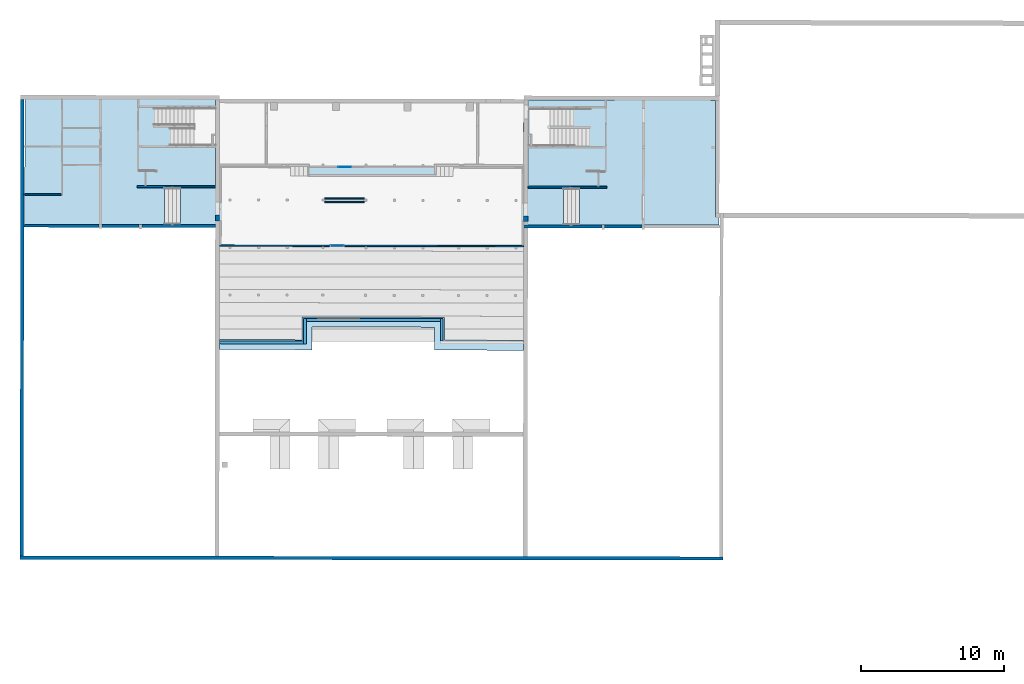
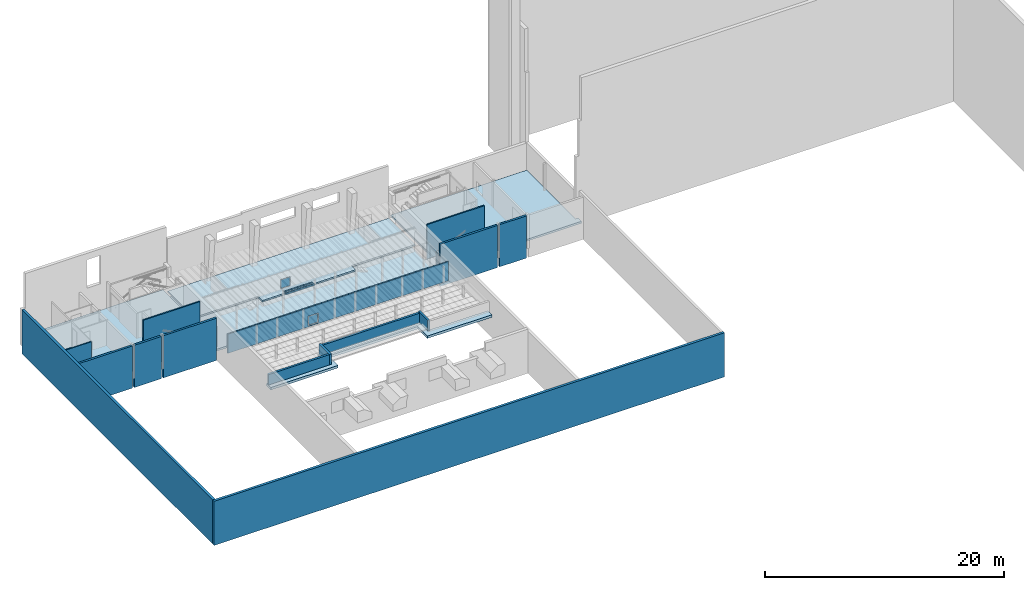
# One storey, part 3 of 24: 19 walls, 5 slabs, 2 plates, 4 openings, 2 elements without a shape of their own.
"""IFC2X3 building model written with IfcOpenShell, lengths in metres."""

import ifcopenshell
import ifcopenshell.guid

model = None  # the IFC model being written
_history = None  # IfcOwnerHistory: only IFC2X3 demands one
_inside = {}  # id of a spatial element -> (the spatial element, [elements in it])
_under = {}  # id of a project, library or spatial element -> (it, [spatial elements below it])
_declared = {}  # id of a project -> (the project, [libraries it declares])
_typed = {}  # id of a type object -> (the type object, [elements of that type])
_made_of = {}  # id of a material, layer set ... -> (it, [elements and type objects made of it])


def new_model(schema):
    """Start an empty IFC model of exactly this schema.

    Asked for "IFC4X3", IfcOpenShell would pick the latest addendum, in which some entities
    have other attributes; the version numbers below select the first issue.
    IFC2X3 requires an IfcOwnerHistory on every rooted entity: one is made here for all.
    """
    global model, _history
    if schema == "IFC4X3":
        model = ifcopenshell.file(schema_version=(4, 3, 0, 0))
    else:
        model = ifcopenshell.file(schema=schema)
    _inside.clear()
    _under.clear()
    _declared.clear()
    _typed.clear()
    _made_of.clear()
    _history = None
    if model.schema == "IFC2X3":
        org = make("IfcOrganization", Name="unknown")
        user = make(
            "IfcPersonAndOrganization",
            ThePerson=make("IfcPerson", FamilyName="unknown"),
            TheOrganization=org,
        )
        app = make(
            "IfcApplication",
            ApplicationDeveloper=org,
            Version="unknown",
            ApplicationFullName="unknown",
            ApplicationIdentifier="unknown",
        )
        _history = make(
            "IfcOwnerHistory",
            OwningUser=user,
            OwningApplication=app,
            ChangeAction="ADDED",
            CreationDate=0,
        )
    return model


def make(cls, **values):
    """One entity of the class cls with the attributes given. An attribute that is None is left unset."""
    return model.create_entity(
        cls, **{name: value for name, value in values.items() if value is not None}
    )


def entity(cls, *values):
    """Any entity or typed value of the class cls, its attributes in the order of the schema. None: left unset."""
    e = model.create_entity(cls)
    for i, value in enumerate(values):
        if value is not None:
            e[i] = value
    return e


def rooted(cls, **values):
    """An entity with a GlobalId (a new one), such as an element, a storey or a relation."""
    return make(cls, GlobalId=ifcopenshell.guid.new(), OwnerHistory=_history, **values)


def si_unit(unit_type, name, prefix=None):
    """IfcSIUnit, for example si_unit("LENGTHUNIT", "METRE", prefix="MILLI")."""
    return make("IfcSIUnit", UnitType=unit_type, Prefix=prefix, Name=name)


def converted_unit(unit_type, name, factor, base, dimensions=None, offset=None):
    """IfcConversionBasedUnit, such as the inch: factor (a typed value) times the base unit."""
    return make(
        "IfcConversionBasedUnit"
        if offset is None
        else "IfcConversionBasedUnitWithOffset",
        ConversionOffset=offset,
        Dimensions=None
        if dimensions is None
        else entity("IfcDimensionalExponents", *dimensions),
        UnitType=unit_type,
        Name=name,
        ConversionFactor=make(
            "IfcMeasureWithUnit", ValueComponent=factor, UnitComponent=base
        ),
    )


def derived_unit(unit_type, elements):
    """IfcDerivedUnit: a product of units, each with its exponent."""
    return make(
        "IfcDerivedUnit",
        Elements=[
            make("IfcDerivedUnitElement", Unit=unit, Exponent=power)
            for unit, power in elements
        ],
        UnitType=unit_type,
    )


def assignment(units):
    """IfcUnitAssignment: the units of a project."""
    return None if units is None else make("IfcUnitAssignment", Units=units)


def point(xyz):
    """IfcCartesianPoint."""
    return None if xyz is None else make("IfcCartesianPoint", Coordinates=xyz)


def direction(xyz):
    """IfcDirection."""
    return None if xyz is None else make("IfcDirection", DirectionRatios=xyz)


def frame(location, z_axis=None, x_axis=None):
    """IfcAxis2Placement3D, a coordinate frame: its origin and axes. An axis left out is left unset."""
    return make(
        "IfcAxis2Placement3D",
        Location=point(location),
        Axis=direction(z_axis),
        RefDirection=direction(x_axis),
    )


def frame_2d(location, x_axis=None):
    """IfcAxis2Placement2D, a coordinate frame in the plane: its origin and x axis."""
    return make(
        "IfcAxis2Placement2D", Location=point(location), RefDirection=direction(x_axis)
    )


def origin():
    """The frame at (0, 0, 0) with its axes left unset."""
    return frame((0.0, 0.0, 0.0))


def place(relative_to, where):
    """IfcLocalPlacement: puts the frame where relative to a parent placement (None: the world)."""
    return make(
        "IfcLocalPlacement", PlacementRelTo=relative_to, RelativePlacement=where
    )


def context(
    kind, dimensions, precision=None, world=None, true_north=None, identifier=None
):
    """IfcGeometricRepresentationContext, for example the 3D "Model" context."""
    return make(
        "IfcGeometricRepresentationContext",
        ContextIdentifier=identifier,
        ContextType=kind,
        CoordinateSpaceDimension=dimensions,
        Precision=precision,
        WorldCoordinateSystem=world,
        TrueNorth=true_north,
    )


def subcontext(parent, identifier, kind, view, scale=None):
    """IfcGeometricRepresentationSubContext, for example "Body" below "Model"."""
    return make(
        "IfcGeometricRepresentationSubContext",
        ContextIdentifier=identifier,
        ContextType=kind,
        ParentContext=parent,
        TargetScale=scale,
        TargetView=view,
    )


def project(units=None, contexts=None):
    """IfcProject with its units and contexts."""
    return rooted(
        "IfcProject",
        Name="project",
        RepresentationContexts=contexts,
        UnitsInContext=assignment(units),
    )


def spatial(cls, under=None, at=None, **own):
    """A site, building, storey or space (cls), placed at a placement, below another one or the project."""
    s = rooted(cls, ObjectPlacement=at, **own)
    if under is not None:
        _under.setdefault(under.id(), (under, []))[1].append(s)
    return s


def polyline(points):
    """IfcPolyline through the points."""
    return make("IfcPolyline", Points=[point(p) for p in points])


def profile(cls, at=None, kind="AREA", **sizes):
    """A parametric profile (cls). Its sizes go by their IFC names, for example OverallWidth=200.0."""
    return make(cls, ProfileType=kind, Position=at, **sizes)


def rectangle(**sizes):
    """IfcRectangleProfileDef."""
    return profile("IfcRectangleProfileDef", **sizes)


def outline(outer, holes=None, kind="AREA"):
    """IfcArbitraryClosedProfileDef: a profile drawn as a closed curve; with holes, ...WithVoids."""
    if holes is None:
        return make("IfcArbitraryClosedProfileDef", ProfileType=kind, OuterCurve=outer)
    return make(
        "IfcArbitraryProfileDefWithVoids",
        ProfileType=kind,
        OuterCurve=outer,
        InnerCurves=holes,
    )


def extrude(swept, where, along, depth):
    """IfcExtrudedAreaSolid: the profile swept, set in the frame where, extruded along a direction by depth."""
    return make(
        "IfcExtrudedAreaSolid",
        SweptArea=swept,
        Position=where,
        ExtrudedDirection=direction(along),
        Depth=depth,
    )


def shape(context_of_items, identifier, shape_type, items):
    """IfcShapeRepresentation: the items that make up one representation, for example the "Body"."""
    return make(
        "IfcShapeRepresentation",
        ContextOfItems=context_of_items,
        RepresentationIdentifier=identifier,
        RepresentationType=shape_type,
        Items=items,
    )


def source(mapping_origin, context_of_items, identifier, shape_type, items):
    """IfcRepresentationMap: a shape defined once, which mapped items show again and again."""
    return make(
        "IfcRepresentationMap",
        MappingOrigin=mapping_origin,
        MappedRepresentation=shape(context_of_items, identifier, shape_type, items),
    )


def transform(
    local_origin,
    x_axis=None,
    y_axis=None,
    z_axis=None,
    scale=None,
    scale2=None,
    scale3=None,
    uniform=True,
):
    """IfcCartesianTransformationOperator3D, or its non-uniform kind. x_axis, y_axis, z_axis: its Axis1, 2, 3."""
    if uniform:
        return make(
            "IfcCartesianTransformationOperator3D",
            Axis1=direction(x_axis),
            Axis2=direction(y_axis),
            LocalOrigin=point(local_origin),
            Scale=scale,
            Axis3=direction(z_axis),
        )
    return make(
        "IfcCartesianTransformationOperator3DnonUniform",
        Axis1=direction(x_axis),
        Axis2=direction(y_axis),
        LocalOrigin=point(local_origin),
        Scale=scale,
        Axis3=direction(z_axis),
        Scale2=scale2,
        Scale3=scale3,
    )


def mapped(mapping_source, mapping_target):
    """IfcMappedItem: shows the shape of a source again, moved by a transform."""
    return make(
        "IfcMappedItem", MappingSource=mapping_source, MappingTarget=mapping_target
    )


def material(Name=None, Category=None):
    """IfcMaterial."""
    return make("IfcMaterial", Name=Name, Category=Category)


def layer(
    of_material, thickness, ventilated=None, Name=None, Category=None, Priority=None
):
    """IfcMaterialLayer: one layer of a wall or slab, of a material (None: an air gap)."""
    return make(
        "IfcMaterialLayer",
        Material=of_material,
        LayerThickness=thickness,
        IsVentilated=ventilated,
        Name=Name,
        Category=Category,
        Priority=Priority,
    )


def layer_set(layers, Name=None):
    """IfcMaterialLayerSet."""
    return make("IfcMaterialLayerSet", MaterialLayers=layers, LayerSetName=Name)


def layer_usage(for_layer_set, set_direction, sense, offset, extent=None):
    """IfcMaterialLayerSetUsage: how a layer set lies in its element."""
    return make(
        "IfcMaterialLayerSetUsage",
        ForLayerSet=for_layer_set,
        LayerSetDirection=set_direction,
        DirectionSense=sense,
        OffsetFromReferenceLine=offset,
        ReferenceExtent=extent,
    )


def made_of(thing, what):
    """Note that an element or type object is made of a material, layer set ...; save() writes the relation."""
    if what is not None:
        _made_of.setdefault(what.id(), (what, []))[1].append(thing)
    return thing


def type_object(cls, material=None, **own):
    """A type object (cls), such as IfcWallType, which elements share."""
    return made_of(rooted(cls, **own), material)


def type_shapes(of_type, sources):
    """Give a type object the sources (RepresentationMaps) that its elements show as mapped items."""
    of_type.RepresentationMaps = sources


def element(
    cls,
    number,
    at=None,
    inside=None,
    cuts=None,
    type_object=None,
    material=None,
    context=None,
    identifier="Body",
    shape_type=None,
    held_by="IfcProductDefinitionShape",
    body=None,
    shapes=None,
    **own,
):
    """One element of the class cls, such as IfcWall. Its Tag is "e" and its number.

    at: its placement. inside: the storey or other place that contains it. cuts: it is an
    opening in that element (IfcRelVoidsElement). A single representation is given by context,
    identifier, shape_type and body (its items); several are given by shapes. held_by: the class
    of the entity that holds the representations. save() writes the other relations.
    """
    e = rooted(cls, Tag="e%d" % number, ObjectPlacement=at, **own)
    if body is not None:
        shapes = [shape(context, identifier, shape_type, body)]
    if shapes is not None:
        e.Representation = make(held_by, Representations=shapes)
    if inside is not None:
        _inside.setdefault(inside.id(), (inside, []))[1].append(e)
    if cuts is not None:
        rooted(
            "IfcRelVoidsElement", RelatingBuildingElement=cuts, RelatedOpeningElement=e
        )
    if type_object is not None:
        _typed.setdefault(type_object.id(), (type_object, []))[1].append(e)
    return made_of(e, material)


def aggregate(whole, parts):
    """IfcRelAggregates: a whole, such as a stair, and the parts it consists of."""
    return rooted("IfcRelAggregates", RelatingObject=whole, RelatedObjects=parts)


def save(model, path):
    """Write the relations noted so far, then the file.

    IfcRelAggregates (storeys below a building ...), IfcRelContainedInSpatialStructure (elements
    in a storey), IfcRelDefinesByType, IfcRelAssociatesMaterial and IfcRelDeclares: one each for
    every whole, place, type object, material and project.
    """
    for whole, parts in _under.values():
        aggregate(whole, parts)
    for where, things in _inside.values():
        rooted(
            "IfcRelContainedInSpatialStructure",
            RelatedElements=things,
            RelatingStructure=where,
        )
    for kind, things in _typed.values():
        rooted("IfcRelDefinesByType", RelatedObjects=things, RelatingType=kind)
    for what, things in _made_of.values():
        rooted("IfcRelAssociatesMaterial", RelatedObjects=things, RelatingMaterial=what)
    for by, libraries in _declared.values():
        rooted("IfcRelDeclares", RelatingContext=by, RelatedDefinitions=libraries)
    model.write(path)


model = new_model("IFC2X3")

# Units and contexts
model_context = context("Model", 3, precision=1e-05, world=origin(), true_north=direction((6.123233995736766e-17, 1.0)))
body_context = subcontext(model_context, "Body", "Model", "MODEL_VIEW")
ifc_project = project(units=[si_unit("LENGTHUNIT", "METRE"), si_unit("AREAUNIT", "SQUARE_METRE"), converted_unit("PLANEANGLEUNIT", "DEGREE", entity("IfcPlaneAngleMeasure", 0.017453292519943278), si_unit("PLANEANGLEUNIT", "RADIAN"), dimensions=[0, 0, 0, 0, 0, 0, 0]), derived_unit("THERMALTRANSMITTANCEUNIT", [(si_unit("MASSUNIT", "GRAM", prefix="KILO"), 1), (si_unit("THERMODYNAMICTEMPERATUREUNIT", "KELVIN"), -1), (si_unit("TIMEUNIT", "SECOND"), -3)])], contexts=[model_context])

# Site, building, storey
site_placement = place(None, frame((1253.6752467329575, 2072.143113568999, 91.49999999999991), z_axis=(0.0, 0.0, 1.0), x_axis=(0.7237211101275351, 0.6900925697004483, 0.0)))
site = spatial("IfcSite", under=ifc_project, at=site_placement, Name="Surface", CompositionType="ELEMENT")
building_placement = place(site_placement, origin())
building = spatial("IfcBuilding", under=site, at=building_placement, CompositionType="ELEMENT")
storey_placement = place(building_placement, frame((0.0, 0.0, -7.049999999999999)))
storey = spatial("IfcBuildingStorey", under=building, at=storey_placement, Name="R-1", CompositionType="ELEMENT", Elevation=-7.049999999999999)

# Slabs
ifc_material_1 = material(Name="OMD_Béton blanc")
ifc_layer_1 = layer(ifc_material_1, 0.2)
ifc_layer_set_1 = layer_set([ifc_layer_1], Name="Sol:Dalle 20")
ifc_layer_usage_1 = layer_usage(ifc_layer_set_1, "AXIS3", "POSITIVE", 0.0)
slab_type_1 = type_object("IfcSlabType", Name="Sol:Dalle 20", PredefinedType="FLOOR", material=ifc_layer_set_1)
slab_1_placement = place(storey_placement, frame((160.15788117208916, -12.57132004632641, 0.5299999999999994)))
element("IfcSlab", 1, at=slab_1_placement, inside=storey, type_object=slab_type_1, material=ifc_layer_usage_1, Name="Sol:Dalle 20", ObjectType="Sol:Dalle 20", PredefinedType="FLOOR", context=body_context, shape_type="SweptSolid", body=[
    extrude(outline(polyline([(4.864375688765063, 10.77123273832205), (5.3264205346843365, 10.287866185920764), (9.193387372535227, 6.2424527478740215), (11.767482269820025, 8.70300214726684), (13.553675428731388, 6.834382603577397), (20.623349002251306, 13.592206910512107), (14.50814415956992, 19.989606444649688), (4.864375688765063, 10.77123273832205)])), frame((20.623349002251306, 19.989606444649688, 0.2), z_axis=(0.0, 0.0, -1.0), x_axis=(-1.0, 0.0, 0.0)), (0.0, 0.0, 1.0), 0.20000000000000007),
])
slab_2_placement = place(storey_placement, frame((160.15788117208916, -12.57132004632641, 0.5299999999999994)))
element("IfcSlab", 2, at=slab_2_placement, inside=storey, type_object=slab_type_1, material=ifc_layer_usage_1, Name="Sol:Dalle 20:2", ObjectType="Sol:Dalle 20", PredefinedType="FLOOR", context=body_context, shape_type="SweptSolid", body=[
    extrude(outline(polyline([(-14.508144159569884, -19.989606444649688), (-7.438476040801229, -13.231787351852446), (-9.224669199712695, -11.363167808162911), (-6.6439521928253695, -8.896288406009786), (-10.901709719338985, -4.44205069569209), (-20.375202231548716, -13.49765945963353), (-14.719810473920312, -19.414027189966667), (-14.896703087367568, -19.583116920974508), (-14.508144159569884, -19.989606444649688)])), frame((20.623349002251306, 19.989606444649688, 0.2), z_axis=(0.0, 0.0, -1.0), x_axis=(-1.0, 0.0, 0.0)), (0.0, 0.0, 1.0), 0.20000000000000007),
])
ifc_layer_usage_2 = layer_usage(ifc_layer_set_1, "AXIS3", "POSITIVE", 0.0)
slab_3_placement = place(storey_placement, origin())
element("IfcSlab", 3, at=slab_3_placement, inside=storey, type_object=slab_type_1, material=ifc_layer_usage_2, Name="Sol:Dalle 20", ObjectType="Sol:Dalle 20", PredefinedType="FLOOR", context=body_context, shape_type="SweptSolid", body=[
    extrude(outline(polyline([(-5.10434361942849, 10.663840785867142), (-5.104343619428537, -10.66790562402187), (0.8406619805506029, -10.667905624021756), (0.8444091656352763, -13.397969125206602), (3.4706967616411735, -13.39796912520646), (3.4339095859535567, 13.403836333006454), (0.807626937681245, 13.400231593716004), (0.8113828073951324, 10.663840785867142), (-5.10434361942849, 10.663840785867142)])), frame((180.08123230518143, 6.6846933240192, 0.0), z_axis=(0.0, 0.0, 1.0), x_axis=(-0.6919753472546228, -0.7219211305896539, 0.0)), (0.0, 0.0, -1.0), 0.2),
])
ifc_layer_2 = layer(ifc_material_1, 0.14999999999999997)
ifc_layer_set_2 = layer_set([ifc_layer_2], Name="Sol:estrade")
ifc_layer_usage_3 = layer_usage(ifc_layer_set_2, "AXIS3", "POSITIVE", 0.0)
slab_type_2 = type_object("IfcSlabType", Name="Sol:estrade", PredefinedType="FLOOR", material=ifc_layer_set_2)
slab_4_placement = place(storey_placement, origin())
element("IfcSlab", 4, at=slab_4_placement, inside=storey, type_object=slab_type_2, material=ifc_layer_usage_3, Name="Sol:estrade", ObjectType="Sol:estrade", PredefinedType="FLOOR", context=body_context, shape_type="SweptSolid", body=[
    extrude(outline(polyline([(-10.659999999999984, -3.497499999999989), (10.659999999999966, -3.49749999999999), (10.659999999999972, 0.9324999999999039), (4.500000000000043, 0.9324999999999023), (4.49999999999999, 1.632499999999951), (-4.500000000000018, 1.6325000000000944), (-4.500000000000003, 0.932500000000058), (-10.659999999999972, 0.9325000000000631), (-10.659999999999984, -3.497499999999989)])), frame((181.201006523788, 7.857428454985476, 0.6499999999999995), z_axis=(0.0, 0.0, -1.0), x_axis=(0.7228702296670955, -0.6909838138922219, 0.0)), (0.0, 0.0, 1.0), 0.14999999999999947),
])
ifc_material_2 = material(Name="Béton, coulé sur place")
ifc_layer_3 = layer(ifc_material_2, 0.24999999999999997)
ifc_layer_set_3 = layer_set([ifc_layer_3], Name="Sol:Dalle 25")
ifc_layer_usage_4 = layer_usage(ifc_layer_set_3, "AXIS3", "POSITIVE", 0.0)
slab_type_3 = type_object("IfcSlabType", Name="Sol:Dalle 25", PredefinedType="FLOOR", material=ifc_layer_set_3)
slab_5_placement = place(storey_placement, origin())
element("IfcSlab", 5, at=slab_5_placement, inside=storey, type_object=slab_type_3, material=ifc_layer_usage_4, Name="Sol:Dalle 25", ObjectType="Sol:Dalle 25", PredefinedType="FLOOR", context=body_context, shape_type="SweptSolid", body=[
    extrude(outline(polyline([(-10.728736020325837, -0.18138120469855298), (-10.727775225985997, -0.8813812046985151), (-4.246317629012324, -0.8813812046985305), (-4.247283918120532, 0.7078856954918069), (4.335513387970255, 0.7176395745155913), (4.338172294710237, -0.8813812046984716), (10.550070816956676, -0.8813812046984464), (10.54945050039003, -0.1813812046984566), (5.037009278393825, -0.1813812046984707), (5.034349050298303, 1.4184342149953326), (-4.947709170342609, 1.407090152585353), (-4.946743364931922, -0.18138120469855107), (-10.728736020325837, -0.18138120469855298)])), frame((172.3294906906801, -1.524650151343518, 1.3077777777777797), z_axis=(0.0, 0.0, 1.0), x_axis=(0.7219211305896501, -0.6919753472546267, 0.0)), (0.0, 0.0, -1.0), 0.24999999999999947),
])

# Curtain wall, plate
curtain_wall_type = type_object("IfcCurtainWallType", Name="Mur-rideau:Trappe", PredefinedType="NOTDEFINED")
curtain_wall_1_placement = place(storey_placement, frame((0.0, 0.0, 7.049999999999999)))
curtain_wall_1 = element("IfcCurtainWall", 6, at=curtain_wall_1_placement, inside=storey, type_object=curtain_wall_type, Name="Mur-rideau:Trappe", ObjectType="Mur-rideau:Trappe")
ifc_material_3 = material(Name="Trap- Dallmer- Polypropylene")
ifc_material_4 = material(Name="Verre")
ifc_layer_4 = layer(ifc_material_4, 0.01)
ifc_layer_set_4 = layer_set([ifc_layer_4], Name="Panneau système:plein")
plate_type = type_object("IfcPlateType", Name="Panneau système:plein", PredefinedType="CURTAIN_PANEL", material=ifc_layer_set_4)
shared_shape = source(origin(), body_context, "Body", "SweptSolid", [
    extrude(rectangle(XDim=0.01, YDim=0.8999999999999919, at=frame_2d((0.0, -5.051514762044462e-15), x_axis=(1.0, 0.0))), frame((0.0, 0.0, 0.0), z_axis=(0.0, 0.0, 1.0), x_axis=(0.0, 1.0, 0.0)), (0.0, 0.0, 1.0), 0.9000000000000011),
])
type_shapes(plate_type, [shared_shape])
plate_1_placement = place(curtain_wall_1_placement, frame((179.14123583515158, 8.458781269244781, -6.299999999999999), z_axis=(0.0, 0.0, 1.0), x_axis=(0.7219211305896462, -0.691975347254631, 0.0)))
plate_1 = element("IfcPlate", 7, at=plate_1_placement, type_object=plate_type, material=ifc_material_3, Name="Panneau système:plein", ObjectType="Panneau système:plein", context=body_context, shape_type="MappedRepresentation", body=[
    mapped(shared_shape, transform((0.0, 0.0, 0.0), scale=1.0)),
])
aggregate(curtain_wall_1, [plate_1])

curtain_wall_2_placement = place(storey_placement, frame((0.0, 0.0, 7.049999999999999)))
curtain_wall_2 = element("IfcCurtainWall", 8, at=curtain_wall_2_placement, inside=storey, type_object=curtain_wall_type, Name="Mur-rideau:Trappe", ObjectType="Mur-rideau:Trappe")
plate_2_placement = place(curtain_wall_2_placement, frame((174.95669021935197, 4.822018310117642, -6.499999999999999), z_axis=(0.0, 0.0, 1.0), x_axis=(0.7228702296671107, -0.690983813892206, 0.0)))
plate_2 = element("IfcPlate", 9, at=plate_2_placement, type_object=plate_type, material=ifc_material_3, Name="Panneau système:plein", ObjectType="Panneau système:plein", context=body_context, shape_type="MappedRepresentation", body=[
    mapped(shared_shape, transform((0.0, 0.0, 0.0), scale=1.0)),
])
aggregate(curtain_wall_2, [plate_2])

# Wall
ifc_layer_5 = layer(ifc_material_1, 0.12999999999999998)
ifc_layer_set_5 = layer_set([ifc_layer_5], Name="Mur de base:MUR 13")
ifc_layer_usage_5 = layer_usage(ifc_layer_set_5, "AXIS2", "NEGATIVE", 0.06499999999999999)
wall_type_1 = type_object("IfcWallType", Name="Mur de base:MUR 13", PredefinedType="STANDARD", material=ifc_layer_set_5)
wall_1_placement = place(storey_placement, frame((191.4314954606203, -5.217673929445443, 0.0), z_axis=(0.0, 0.0, 1.0), x_axis=(-0.7228702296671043, 0.6909838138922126, 0.0)))
element("IfcWallStandardCase", 10, at=wall_1_placement, inside=storey, type_object=wall_type_1, material=ifc_layer_usage_5, Name="Mur de base:MUR 13", ObjectType="Mur de base:MUR 13", context=body_context, shape_type="SweptSolid", body=[
    extrude(outline(polyline([(-0.04164125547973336, -3.4788160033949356), (0.08835875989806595, -3.4788160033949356), (0.08568080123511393, 2.0268982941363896), (-0.0443191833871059, 2.026835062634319), (-0.04407117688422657, 1.5169493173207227), (-0.04400794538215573, 1.3869493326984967), (-0.04164125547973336, -3.4788160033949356)])), frame((2.0268563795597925, -0.02166666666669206, 0.0), z_axis=(0.0, 0.0, 1.0), x_axis=(0.0004863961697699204, 0.999999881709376, 0.0)), (0.0, 0.0, 1.0), 3.499999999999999),
])

# Wall, opening
ifc_layer_usage_6 = layer_usage(ifc_layer_set_5, "AXIS2", "POSITIVE", -0.06499999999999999)
wall_2_placement = place(storey_placement, frame((167.6759953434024, 17.489951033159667, 0.0), z_axis=(0.0, 0.0, 1.0), x_axis=(0.7228702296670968, -0.6909838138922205, 0.0)))
wall_2 = element("IfcWallStandardCase", 11, at=wall_2_placement, inside=storey, type_object=wall_type_1, material=ifc_layer_usage_6, Name="Mur de base:MUR 13", ObjectType="Mur de base:MUR 13", context=body_context, shape_type="SweptSolid", body=[
    extrude(rectangle(XDim=5.473681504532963, YDim=0.13000000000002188, at=frame_2d((2.7368407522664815, -1.2004286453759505e-15), x_axis=(-1.0, 0.0))), origin(), (0.0, 0.0, 1.0), 3.2999999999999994),
])
opening_1_placement = place(wall_2_placement, frame((-109.12271219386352, -128.50436368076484, 0.7299999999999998)))
element("IfcOpeningElement", 12, at=opening_1_placement, cuts=wall_2, Name="Mur de base:MUR 13", ObjectType="Opening", context=body_context, shape_type="SweptSolid", body=[
    extrude(rectangle(XDim=2.0850000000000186, YDim=0.13000000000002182, at=frame_2d((1.8492152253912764e-14, 5.551115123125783e-16), x_axis=(0.0, 1.0))), frame((109.69759583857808, 128.5677893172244, 1.04250000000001), z_axis=(0.002745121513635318, 0.9999962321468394, 0.0), x_axis=(0.9999962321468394, -0.002745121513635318, 0.0)), (0.0, 0.0, 1.0), 0.9349999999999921),
])

# Wall
ifc_layer_6 = layer(ifc_material_1, 0.1)
ifc_layer_set_6 = layer_set([ifc_layer_6], Name="Mur de base:MUR 10")
ifc_layer_usage_7 = layer_usage(ifc_layer_set_6, "AXIS2", "NEGATIVE", 0.05)
wall_type_2 = type_object("IfcWallType", Name="Mur de base:MUR 10", PredefinedType="STANDARD", material=ifc_layer_set_6)
wall_3_placement = place(storey_placement, frame((163.4522689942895, 20.766509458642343, -0.08000000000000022), z_axis=(0.0, 0.0, 1.0), x_axis=(-0.7228702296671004, 0.6909838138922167, 0.0)))
element("IfcWallStandardCase", 13, at=wall_3_placement, inside=storey, type_object=wall_type_2, material=ifc_layer_usage_7, Name="Mur de base:MUR 10", ObjectType="Mur de base:MUR 10", context=body_context, shape_type="SweptSolid", body=[
    extrude(outline(polyline([(-0.0496927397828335, -1.301306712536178), (0.05030726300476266, -1.301306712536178), (0.0496927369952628, 1.3013185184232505), (-0.05030726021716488, 1.3012949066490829), (-0.0496927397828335, -1.301306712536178)])), frame((1.3013067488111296, 0.0, 0.0), z_axis=(0.0, 0.0, 1.0), x_axis=(0.00023611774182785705, 0.9999999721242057, 0.0)), (0.0, 0.0, 1.0), 3.3799999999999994),
])

# Wall, opening
ifc_layer_7 = layer(ifc_material_1, 0.29999999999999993)
ifc_layer_set_7 = layer_set([ifc_layer_7], Name="Mur de base:MUR 30")
ifc_layer_usage_8 = layer_usage(ifc_layer_set_7, "AXIS2", "NEGATIVE", 0.14999999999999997)
wall_type_3 = type_object("IfcWallType", Name="Mur de base:MUR 30", PredefinedType="STANDARD", material=ifc_layer_set_7)
wall_4_placement = place(storey_placement, frame((170.37994917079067, 12.180023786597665, 0.0), z_axis=(0.0, 0.0, 1.0), x_axis=(-0.6909838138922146, -0.7228702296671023, 0.0)))
wall_4 = element("IfcWallStandardCase", 14, at=wall_4_placement, inside=storey, type_object=wall_type_3, material=ifc_layer_usage_8, Name="Mur de base:MUR 30", ObjectType="Mur de base:MUR 30", context=body_context, shape_type="SweptSolid", body=[
    extrude(rectangle(XDim=0.4251674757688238, YDim=0.2999999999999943, at=frame_2d((0.21258373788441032, -1.2073675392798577e-15), x_axis=(-1.0, 0.0))), origin(), (0.0, 0.0, 1.0), 2.08500000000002),
])
opening_2_placement = place(wall_4_placement, frame((126.53436368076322, -114.74639369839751, 0.0)))
element("IfcOpeningElement", 15, at=opening_2_placement, cuts=wall_4, Name="Mur de base:MUR 30", ObjectType="Opening", context=body_context, shape_type="SweptSolid", body=[
    extrude(rectangle(XDim=2.134, YDim=0.9149999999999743, at=frame_2d((0.0, 2.0594637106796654e-14), x_axis=(1.0, 0.0))), frame((-126.99186368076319, 113.37239369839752, 1.067), z_axis=(0.0, 1.0, 0.0), x_axis=(0.0, 0.0, -1.0)), (0.0, 0.0, 1.0), 3.048),
])

ifc_layer_usage_9 = layer_usage(ifc_layer_set_7, "AXIS2", "POSITIVE", -0.14999999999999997)
wall_5_placement = place(storey_placement, frame((185.93450040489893, -2.7819289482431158, 0.0), z_axis=(0.0, 0.0, 1.0), x_axis=(-0.6913353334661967, -0.7225340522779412, 0.0)))
wall_5 = element("IfcWallStandardCase", 16, at=wall_5_placement, inside=storey, type_object=wall_type_3, material=ifc_layer_usage_9, Name="Mur de base:MUR 30", ObjectType="Mur de base:MUR 30", context=body_context, shape_type="SweptSolid", body=[
    extrude(rectangle(XDim=0.3749999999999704, YDim=0.3000000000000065, at=frame_2d((0.1874999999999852, 1.942890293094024e-16), x_axis=(-1.0, 0.0))), origin(), (0.0, 0.0, 1.0), 2.08500000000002),
])
opening_3_placement = place(wall_5_placement, frame((126.53305144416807, -136.26725381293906, 0.0)))
element("IfcOpeningElement", 17, at=opening_3_placement, cuts=wall_5, Name="Mur de base:MUR 30", ObjectType="Opening", context=body_context, shape_type="SweptSolid", body=[
    extrude(rectangle(XDim=2.134, YDim=0.9150000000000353, at=frame_2d((0.0, -3.9690473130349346e-14), x_axis=(1.0, 0.0))), frame((-126.99055144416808, 134.89325381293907, 1.067), z_axis=(0.0, 1.0, 0.0), x_axis=(0.0, 0.0, -1.0)), (0.0, 0.0, 1.0), 3.0480000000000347),
])

# Walls
ifc_layer_8 = layer(ifc_material_1, 0.24)
ifc_layer_set_8 = layer_set([ifc_layer_8], Name="Mur de base:MUR 24")
ifc_layer_usage_10 = layer_usage(ifc_layer_set_8, "AXIS2", "NEGATIVE", 0.12)
wall_type_4 = type_object("IfcWallType", Name="Mur de base:MUR 24", PredefinedType="STANDARD", material=ifc_layer_set_8)
wall_6_placement = place(storey_placement, frame((179.3855811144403, -29.643179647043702, -1.0), z_axis=(0.0, 0.0, 1.0), x_axis=(-0.7228702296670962, 0.6909838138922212, 0.0)))
element("IfcWallStandardCase", 18, at=wall_6_placement, inside=storey, type_object=wall_type_4, material=ifc_layer_usage_10, Name="Mur de base:MUR 24", ObjectType="Mur de base:MUR 24", context=body_context, shape_type="SweptSolid", body=[
    extrude(outline(polyline([(-0.04219397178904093, -24.589551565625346), (0.19780603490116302, -24.589551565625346), (0.18618936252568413, 24.6090896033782), (-0.053810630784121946, 24.609032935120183), (-0.05375396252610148, 24.36903294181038), (-0.05057859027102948, 10.920775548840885), (-0.05050775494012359, 10.620775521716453), (-0.04548534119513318, -10.650025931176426), (-0.045414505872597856, -10.95002592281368), (-0.042250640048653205, -24.349551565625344), (-0.04219397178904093, -24.589551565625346)])), frame((24.60904495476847, -0.07200000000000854, 0.0), z_axis=(0.0, 0.0, 1.0), x_axis=(0.00023611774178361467, 0.9999999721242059, 0.0)), (0.0, 0.0, 1.0), 4.499999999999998),
])
ifc_layer_usage_11 = layer_usage(ifc_layer_set_8, "AXIS2", "NEGATIVE", 0.12)
wall_7_placement = place(storey_placement, frame((143.99103095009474, 4.356052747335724, -1.0), z_axis=(0.0, 0.0, 1.0), x_axis=(0.6911544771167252, 0.7227070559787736, 0.0)))
element("IfcWallStandardCase", 19, at=wall_7_placement, inside=storey, type_object=wall_type_4, material=ifc_layer_usage_11, Name="Mur de base:MUR 24", ObjectType="Mur de base:MUR 24", context=body_context, shape_type="SweptSolid", body=[
    extrude(outline(polyline([(-0.0645399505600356, -13.603912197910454), (0.17546020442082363, -13.603912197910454), (0.13913815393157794, 18.35719740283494), (-0.10086162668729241, 18.356867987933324), (-0.07471203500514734, -4.653120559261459), (-0.07448474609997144, -4.853120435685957), (-0.0645399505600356, -13.603912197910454)])), frame((18.35702742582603, -0.03999999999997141, 0.0), z_axis=(0.0, 0.0, 1.0), x_axis=(0.0011364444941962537, 0.9999993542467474, 0.0)), (0.0, 0.0, 1.0), 4.499999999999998),
])
ifc_material_5 = material(Name="Béton - Béton coulé sur place")
ifc_layer_9 = layer(ifc_material_5, 0.2)
ifc_layer_set_9 = layer_set([ifc_layer_9], Name="Mur de base:MUR 20")
ifc_layer_usage_12 = layer_usage(ifc_layer_set_9, "AXIS2", "NEGATIVE", 0.1)
wall_type_5 = type_object("IfcWallType", Name="Mur de base:MUR 20", PredefinedType="STANDARD", material=ifc_layer_set_9)
wall_8_placement = place(storey_placement, frame((191.31677943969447, -8.912297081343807, -1.0), z_axis=(0.0, 0.0, 1.0), x_axis=(-0.7228702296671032, 0.6909838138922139, 0.0)))
element("IfcWallStandardCase", 20, at=wall_8_placement, inside=storey, type_object=wall_type_5, material=ifc_layer_usage_12, Name="Mur de base:MUR 20", ObjectType="Mur de base:MUR 20", context=body_context, shape_type="SweptSolid", body=[
    extrude(rectangle(XDim=2.6000000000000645, YDim=0.20000000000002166, at=frame_2d((1.300000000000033, -1.519617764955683e-15), x_axis=(-1.0, 0.0))), origin(), (0.0, 0.0, 1.0), 4.299999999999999),
])
ifc_layer_usage_13 = layer_usage(ifc_layer_set_9, "AXIS2", "NEGATIVE", 0.1)
wall_9_placement = place(storey_placement, frame((189.29274279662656, -6.9775424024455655, -1.0), z_axis=(0.0, 0.0, 1.0), x_axis=(-0.7228702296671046, 0.6909838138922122, 0.0)))
element("IfcWallStandardCase", 21, at=wall_9_placement, inside=storey, type_object=wall_type_5, material=ifc_layer_usage_13, Name="Mur de base:MUR 20", ObjectType="Mur de base:MUR 20", context=body_context, shape_type="SweptSolid", body=[
    extrude(rectangle(XDim=5.527020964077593, YDim=0.20000000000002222, at=frame_2d((2.7635104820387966, -3.0531133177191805e-16), x_axis=(-1.0, 0.0))), origin(), (0.0, 0.0, 1.0), 4.299999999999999),
])
ifc_layer_usage_14 = layer_usage(ifc_layer_set_9, "AXIS2", "NEGATIVE", 0.1)
wall_10_placement = place(storey_placement, frame((166.0163214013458, 15.272136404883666, -1.0), z_axis=(0.0, 0.0, 1.0), x_axis=(0.7228702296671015, -0.6909838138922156, 0.0)))
element("IfcWallStandardCase", 22, at=wall_10_placement, inside=storey, type_object=wall_type_5, material=ifc_layer_usage_14, Name="Mur de base:MUR 20", ObjectType="Mur de base:MUR 20", context=body_context, shape_type="SweptSolid", body=[
    extrude(rectangle(XDim=5.140936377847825, YDim=0.20000000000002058, at=frame_2d((2.5704681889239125, -9.992007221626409e-16), x_axis=(-1.0, 0.0))), origin(), (0.0, 0.0, 1.0), 4.299999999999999),
])
ifc_layer_usage_15 = layer_usage(ifc_layer_set_9, "AXIS2", "NEGATIVE", 0.1)
wall_11_placement = place(storey_placement, frame((163.99228475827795, 17.206891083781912, -1.0), z_axis=(0.0, 0.0, 1.0), x_axis=(0.7228702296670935, -0.690983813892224, 0.0)))
element("IfcWallStandardCase", 23, at=wall_11_placement, inside=storey, type_object=wall_type_5, material=ifc_layer_usage_15, Name="Mur de base:MUR 20", ObjectType="Mur de base:MUR 20", context=body_context, shape_type="SweptSolid", body=[
    extrude(rectangle(XDim=2.600000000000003, YDim=0.20000000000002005, at=frame_2d((1.3000000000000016, -4.579669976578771e-16), x_axis=(-1.0, 0.0))), origin(), (0.0, 0.0, 1.0), 4.299999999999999),
])
ifc_layer_usage_16 = layer_usage(ifc_layer_set_9, "AXIS2", "NEGATIVE", 0.1)
wall_12_placement = place(storey_placement, frame((160.05036021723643, 20.97493400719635, -1.0), z_axis=(0.0, 0.0, 1.0), x_axis=(0.7228702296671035, -0.6909838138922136, 0.0)))
element("IfcWallStandardCase", 24, at=wall_12_placement, inside=storey, type_object=wall_type_5, material=ifc_layer_usage_16, Name="Mur de base:MUR 20", ObjectType="Mur de base:MUR 20", context=body_context, shape_type="SweptSolid", body=[
    extrude(outline(polyline([(-0.10000000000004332, -2.6265664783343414), (0.09999999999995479, -2.626566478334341), (0.09999999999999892, 2.6265428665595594), (-0.09999999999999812, 2.626590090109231), (-0.10000000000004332, -2.6265664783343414)])), frame((2.62659009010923, 0.0, 0.0), z_axis=(0.0, 0.0, 1.0), x_axis=(0.0, 1.0, 0.0)), (0.0, 0.0, 1.0), 4.299999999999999),
])
ifc_layer_usage_17 = layer_usage(ifc_layer_set_9, "AXIS2", "NEGATIVE", 0.1)
wall_13_placement = place(storey_placement, frame((164.32481182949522, 5.6283818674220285, 1.3077777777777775), z_axis=(0.0, 0.0, 1.0), x_axis=(0.7228702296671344, -0.6909838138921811, 0.0)))
element("IfcWallStandardCase", 25, at=wall_13_placement, inside=storey, type_object=wall_type_5, material=ifc_layer_usage_17, Name="Mur de base:MUR 20", ObjectType="Mur de base:MUR 20", context=body_context, shape_type="SweptSolid", body=[
    extrude(outline(polyline([(-0.09775153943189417, -2.940919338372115), (0.10224851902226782, -2.940919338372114), (0.09775148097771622, 2.9409957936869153), (-0.1022484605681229, 2.9408428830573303), (-0.09775153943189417, -2.940919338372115)])), frame((2.9409201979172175, 0.0, 0.0), z_axis=(0.0, 0.0, 1.0), x_axis=(0.0007645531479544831, 0.9999997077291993, 0.0)), (0.0, 0.0, 1.0), 1.0622222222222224),
])
ifc_layer_usage_18 = layer_usage(ifc_layer_set_9, "AXIS2", "NEGATIVE", 0.1)
wall_14_placement = place(storey_placement, frame((168.57969967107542, 1.4227375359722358, 1.3077777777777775), z_axis=(0.0, 0.0, 1.0), x_axis=(0.6915362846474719, 0.722341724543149, 0.0)))
element("IfcWallStandardCase", 26, at=wall_14_placement, inside=storey, type_object=wall_type_5, material=ifc_layer_usage_18, Name="Mur de base:MUR 20", ObjectType="Mur de base:MUR 20", context=body_context, shape_type="SweptSolid", body=[
    extrude(outline(polyline([(-0.10047045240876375, -0.8902475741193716), (0.09952957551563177, -0.8902475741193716), (0.10036477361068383, 0.6902632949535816), (0.10047046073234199, 0.8902633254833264), (-0.09952959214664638, 0.8902161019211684), (-0.10036476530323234, -0.6902475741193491), (-0.10047045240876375, -0.8902475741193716)])), frame((0.8903162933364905, 0.0, 0.0), z_axis=(0.0, 0.0, 1.0), x_axis=(-0.0005284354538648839, 0.9999998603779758, 0.0)), (0.0, 0.0, 1.0), 1.0622222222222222),
])
ifc_layer_usage_19 = layer_usage(ifc_layer_set_9, "AXIS2", "NEGATIVE", 0.1)
wall_15_placement = place(storey_placement, frame((169.81410316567, 2.567600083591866, 1.3077777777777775), z_axis=(0.0, 0.0, 1.0), x_axis=(0.7227070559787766, -0.691154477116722, 0.0)))
element("IfcWallStandardCase", 27, at=wall_15_placement, inside=storey, type_object=wall_type_5, material=ifc_layer_usage_19, Name="Mur de base:MUR 20", ObjectType="Mur de base:MUR 20", context=body_context, shape_type="SweptSolid", body=[
    extrude(outline(polyline([(-0.10110689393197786, -4.687877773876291), (0.09889311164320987, -4.687877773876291), (0.10110687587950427, 4.6878013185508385), (-0.09889309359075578, 4.687954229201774), (-0.10110689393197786, -4.687877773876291)])), frame((4.6879307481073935, 0.0, 0.0), z_axis=(0.0, 0.0, 1.0), x_axis=(-0.00023611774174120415, 0.9999999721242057, 0.0)), (0.0, 0.0, 1.0), 0.9699999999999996),
])
ifc_layer_usage_20 = layer_usage(ifc_layer_set_9, "AXIS2", "NEGATIVE", 0.1)
wall_16_placement = place(storey_placement, frame((176.73145164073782, -3.9093433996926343, 1.290716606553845), z_axis=(0.0, 0.0, 1.0), x_axis=(-0.6909838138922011, -0.7228702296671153, 0.0)))
element("IfcWallStandardCase", 28, at=wall_16_placement, inside=storey, type_object=wall_type_5, material=ifc_layer_usage_20, Name="Mur de base:MUR 20", ObjectType="Mur de base:MUR 20", context=body_context, shape_type="SweptSolid", body=[
    extrude(outline(polyline([(-0.10000000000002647, -0.7891130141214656), (0.09999999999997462, -0.7891130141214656), (0.1000000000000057, 0.7890894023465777), (-0.09999999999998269, 0.7891366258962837), (-0.10000000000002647, -0.7891130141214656)])), frame((0.7891366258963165, 0.0, 0.0), z_axis=(0.0, 0.0, 1.0), x_axis=(0.0, 1.0, 0.0)), (0.0, 0.0, 1.0), 1.079283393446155),
])

# Wall, opening
ifc_material_6 = material(Name="OMD_Cloison 100mm CF1h")
ifc_layer_10 = layer(ifc_material_6, 0.1)
ifc_layer_set_10 = layer_set([ifc_layer_10], Name="Mur de base:Cloison 100mm CF1h")
ifc_layer_usage_21 = layer_usage(ifc_layer_set_10, "AXIS2", "POSITIVE", -0.05)
wall_type_6 = type_object("IfcWallType", Name="Mur de base:Cloison 100mm CF1h", PredefinedType="STANDARD", material=ifc_layer_set_10)
wall_17_placement = place(storey_placement, frame((168.99832208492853, 10.517557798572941, 0.3948838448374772), z_axis=(0.0, 0.0, 1.0), x_axis=(0.722870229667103, -0.690983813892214, 0.0)))
wall_17 = element("IfcWallStandardCase", 29, at=wall_17_placement, inside=storey, type_object=wall_type_6, material=ifc_layer_usage_21, Name="Mur de base:Cloison 100mm CF1h", ObjectType="Mur de base:Cloison 100mm CF1h", context=body_context, shape_type="SweptSolid", body=[
    extrude(outline(polyline([(21.28134885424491, -0.05000000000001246), (21.28139749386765, 0.05000000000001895), (0.0, 0.05000000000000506), (0.0, -0.049999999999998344), (21.28134885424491, -0.05000000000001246)])), origin(), (0.0, 0.0, 1.0), 1.9651161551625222),
])
opening_4_placement = place(wall_17_placement, frame((-114.89639369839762, -124.37793455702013, 0.10511615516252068)))
element("IfcOpeningElement", 30, at=opening_4_placement, cuts=wall_17, Name="Mur de base:Cloison 100mm CF1h", ObjectType="Opening", context=body_context, shape_type="SweptSolid", body=[
    extrude(rectangle(XDim=1.0, YDim=0.9999999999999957, at=frame_2d((0.0, 1.6653345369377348e-16), x_axis=(1.0, 0.0))), frame((123.13904623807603, 122.90393455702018, 0.5), z_axis=(0.0, 1.0, 0.0), x_axis=(0.0, 0.0, -1.0)), (0.0, 0.0, 1.0), 3.048),
])

# Walls
ifc_layer_usage_22 = layer_usage(ifc_layer_set_10, "AXIS2", "NEGATIVE", 0.05)
wall_18_placement = place(storey_placement, frame((176.61819593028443, 7.835296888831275, 1.9499999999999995), z_axis=(0.0, 0.0, 1.0), x_axis=(0.7219211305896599, -0.6919753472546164, 0.0)))
element("IfcWallStandardCase", 31, at=wall_18_placement, inside=storey, type_object=wall_type_6, material=ifc_layer_usage_22, Name="Mur de base:Cloison 100mm CF1h", ObjectType="Mur de base:Cloison 100mm CF1h", context=body_context, shape_type="SweptSolid", body=[
    extrude(rectangle(XDim=2.750000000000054, YDim=0.0999999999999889, at=frame_2d((1.375000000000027, -2.824129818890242e-15), x_axis=(-1.0, 0.0))), origin(), (0.0, 0.0, 1.0), 0.15000000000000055),
])
ifc_layer_usage_23 = layer_usage(ifc_layer_set_10, "AXIS2", "NEGATIVE", 0.05)
wall_19_placement = place(storey_placement, frame((178.4304852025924, 5.7518844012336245, 1.9499999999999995), z_axis=(0.0, 0.0, 1.0), x_axis=(-0.7219211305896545, 0.6919753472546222, 0.0)))
element("IfcWallStandardCase", 32, at=wall_19_placement, inside=storey, type_object=wall_type_6, material=ifc_layer_usage_23, Name="Mur de base:Cloison 100mm CF1h", ObjectType="Mur de base:Cloison 100mm CF1h", context=body_context, shape_type="SweptSolid", body=[
    extrude(rectangle(XDim=2.750000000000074, YDim=0.0999999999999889, at=frame_2d((1.375000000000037, -2.418204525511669e-15), x_axis=(-1.0, 0.0))), origin(), (0.0, 0.0, 1.0), 0.15000000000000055),
])

save(model, "model.ifc")
